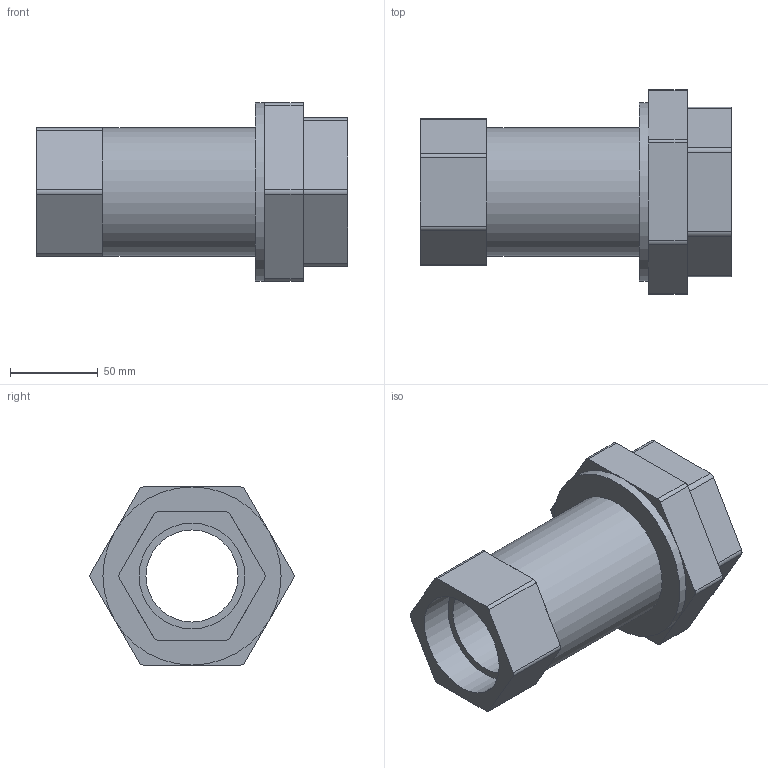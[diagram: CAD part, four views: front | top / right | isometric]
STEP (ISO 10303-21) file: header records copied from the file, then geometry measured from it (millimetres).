
FILE_DESCRIPTION(/* description */ ('VIC VALVE BALANCING LOW LEAD TA SERIES 76X (FPT)-POTABLE WATER'),/* implementation_level */ '2;1');
FILE_NAME(/* name */ 'C:\Files for Export\76X\Victaulic_IPS-HB_Valve ICSS-Low Lead Balancing POTW_TA Series 76X (FPT)\Victaulic_IPS-HB_Valve ICSS-Low Lead Balancing POTW_TA Series 76X (FPT)_2 (50).stp',/* time_stamp */ '2024-03-08T10:54:17+01:00',/* author */ ('Vjadhav'),/* organization */ ('Victaulic'),/* preprocessor_version */ 'ST-DEVELOPER v18.1',/* originating_system */ 'Autodesk Inventor 2020',/* authorisation */ '');
FILE_SCHEMA (('AUTOMOTIVE_DESIGN { 1 0 10303 214 3 1 1 }'));
Length unit declared in the file: inch
Products named in the file (1): 76X-02.0
Bounding box: 177.8 x 116.53 x 101.6 mm (x, y, z)
Volume: 525478.1 mm3; surface area: 90982 mm2
Topology: 1 solids, 1 shells, 59 faces, 152 edges, 99 vertices
Faces by surface type: plane 36, cylinder 23
Full cylindrical faces by diameter (mm): 52.502 x1, 60.325 x2, 73.025 x1, 101.6 x1
Entity records: 1919 total; most frequent: DIRECTION 335, CARTESIAN_POINT 311, ORIENTED_EDGE 304, EDGE_CURVE 152, AXIS2_PLACEMENT_3D 123, VERTEX_POINT 99, LINE 89, VECTOR 89
